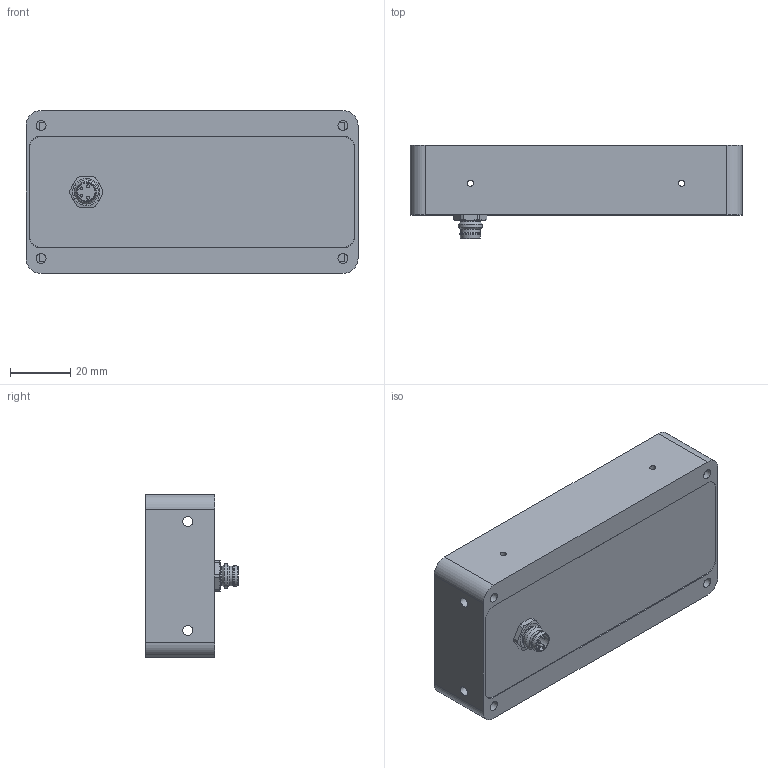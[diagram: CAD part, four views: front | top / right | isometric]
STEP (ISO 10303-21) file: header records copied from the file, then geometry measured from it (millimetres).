
FILE_DESCRIPTION (( 'STEP AP214' ), '1' );
FILE_NAME ('01774.00 Basisbaugruppe WBL-0410 Step 17082020.STEP', '2020-08-17T12:04:03', ( '' ), ( '' ), 'SwSTEP 2.0', 'SolidWorks 2013', '' );
FILE_SCHEMA (( 'AUTOMOTIVE_DESIGN' ));
Length unit declared in the file: millimetre
Products named in the file (1): 01774.00 Basisbaugruppe WBL-0410 Step 17082020
Bounding box: 110 x 30.8 x 54 mm (x, y, z)
Surface area: 23162.3 mm2 (no closed solid volume)
Topology: 0 solids, 9 shells, 83 faces, 246 edges, 174 vertices
Faces by surface type: cylinder 43, plane 33, cone 5, bspline 2
Full cylindrical faces by diameter (mm): 1 x4, 2.05 x4, 3.3 x8, 5.8 x1, 6.5 x2, 6.9 x1, 8 x1
Entity records: 4236 total; most frequent: CARTESIAN_POINT 1210, DIRECTION 460, ORIENTED_EDGE 331, EDGE_CURVE 210, AXIS2_PLACEMENT_3D 183, VERTEX_POINT 166, EDGE_LOOP 129, FACE_OUTER_BOUND 106
